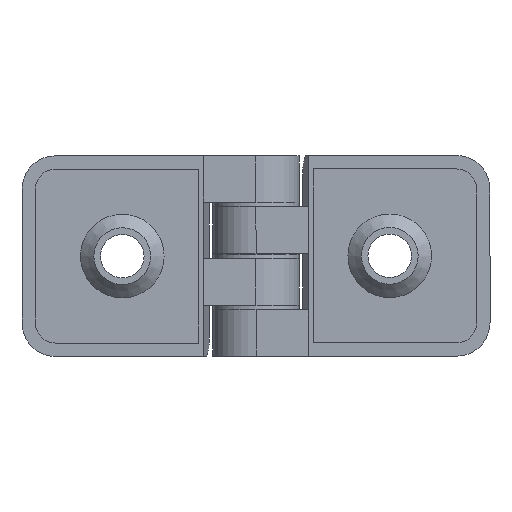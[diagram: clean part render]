
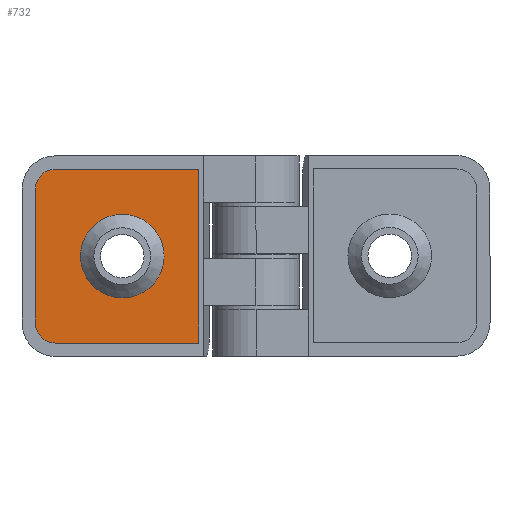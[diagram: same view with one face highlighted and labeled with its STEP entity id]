
A CAD part, front view. The second image highlights one B-rep face of the part: STEP entity #732.
In plain terms, the highlighted planar face has unit normal (0, -1, 0).
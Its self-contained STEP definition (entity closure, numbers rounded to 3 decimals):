
#70=LINE('',#1119,#127);
#74=LINE('',#1126,#131);
#78=LINE('',#1138,#135);
#81=LINE('',#1147,#138);
#127=VECTOR('',#880,26.);
#131=VECTOR('',#886,21.408);
#135=VECTOR('',#898,20.);
#138=VECTOR('',#909,21.408);
#187=PLANE('',#789);
#209=FACE_BOUND('',#284,.T.);
#235=FACE_OUTER_BOUND('',#283,.T.);
#283=EDGE_LOOP('',(#562,#563,#564,#565,#566,#567));
#284=EDGE_LOOP('',(#568));
#339=CIRCLE('',#775,6.25);
#343=CIRCLE('',#783,3.);
#345=CIRCLE('',#787,3.);
#374=VERTEX_POINT('',#1105);
#379=VERTEX_POINT('',#1116);
#380=VERTEX_POINT('',#1118);
#382=VERTEX_POINT('',#1124);
#384=VERTEX_POINT('',#1130);
#386=VERTEX_POINT('',#1136);
#388=VERTEX_POINT('',#1142);
#440=EDGE_CURVE('',#374,#374,#339,.T.);
#445=EDGE_CURVE('',#379,#380,#70,.T.);
#449=EDGE_CURVE('',#382,#379,#74,.T.);
#452=EDGE_CURVE('',#384,#382,#343,.T.);
#455=EDGE_CURVE('',#386,#384,#78,.T.);
#458=EDGE_CURVE('',#388,#386,#345,.T.);
#460=EDGE_CURVE('',#380,#388,#81,.T.);
#562=ORIENTED_EDGE('',*,*,#460,.F.);
#563=ORIENTED_EDGE('',*,*,#445,.F.);
#564=ORIENTED_EDGE('',*,*,#449,.F.);
#565=ORIENTED_EDGE('',*,*,#452,.F.);
#566=ORIENTED_EDGE('',*,*,#455,.F.);
#567=ORIENTED_EDGE('',*,*,#458,.F.);
#568=ORIENTED_EDGE('',*,*,#440,.F.);
#732=ADVANCED_FACE('',(#235,#209),#187,.T.);
#775=AXIS2_PLACEMENT_3D('',#1106,#868,#869);
#783=AXIS2_PLACEMENT_3D('',#1132,#892,#893);
#787=AXIS2_PLACEMENT_3D('',#1144,#904,#905);
#789=AXIS2_PLACEMENT_3D('',#1148,#910,#911);
#868=DIRECTION('center_axis',(0.,-1.,0.));
#869=DIRECTION('ref_axis',(-1.,0.,0.));
#880=DIRECTION('',(0.,0.,-1.));
#886=DIRECTION('',(1.,0.,0.));
#892=DIRECTION('center_axis',(0.,1.,0.));
#893=DIRECTION('ref_axis',(0.,0.,1.));
#898=DIRECTION('',(0.,0.,1.));
#904=DIRECTION('center_axis',(0.,1.,0.));
#905=DIRECTION('ref_axis',(-1.,0.,0.));
#909=DIRECTION('',(-1.,0.,0.));
#910=DIRECTION('center_axis',(0.,-1.,0.));
#911=DIRECTION('ref_axis',(0.,0.,-1.));
#1105=CARTESIAN_POINT('',(-5.95,2.,15.));
#1106=CARTESIAN_POINT('Origin',(-12.2,2.,15.));
#1116=CARTESIAN_POINT('',(-0.792,2.,28.));
#1118=CARTESIAN_POINT('',(-0.792,2.,2.));
#1119=CARTESIAN_POINT('',(-0.792,2.,2.));
#1124=CARTESIAN_POINT('',(-22.2,2.,28.));
#1126=CARTESIAN_POINT('',(-0.792,2.,28.));
#1130=CARTESIAN_POINT('',(-25.2,2.,25.));
#1132=CARTESIAN_POINT('Origin',(-22.2,2.,25.));
#1136=CARTESIAN_POINT('',(-25.2,2.,5.));
#1138=CARTESIAN_POINT('',(-25.2,2.,25.));
#1142=CARTESIAN_POINT('',(-22.2,2.,2.));
#1144=CARTESIAN_POINT('Origin',(-22.2,2.,5.));
#1147=CARTESIAN_POINT('',(-22.2,2.,2.));
#1148=CARTESIAN_POINT('Origin',(-12.382,2.,15.));
